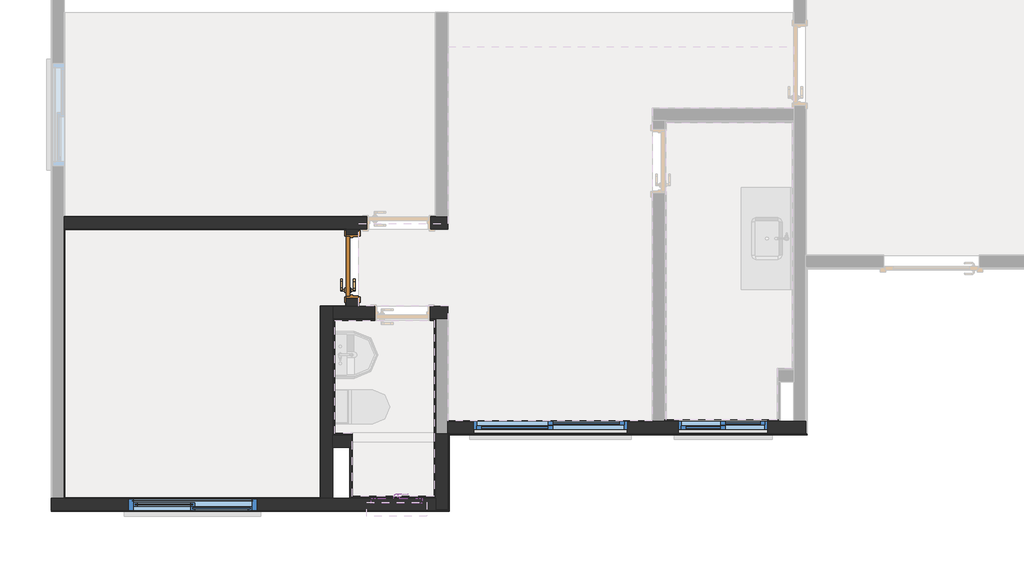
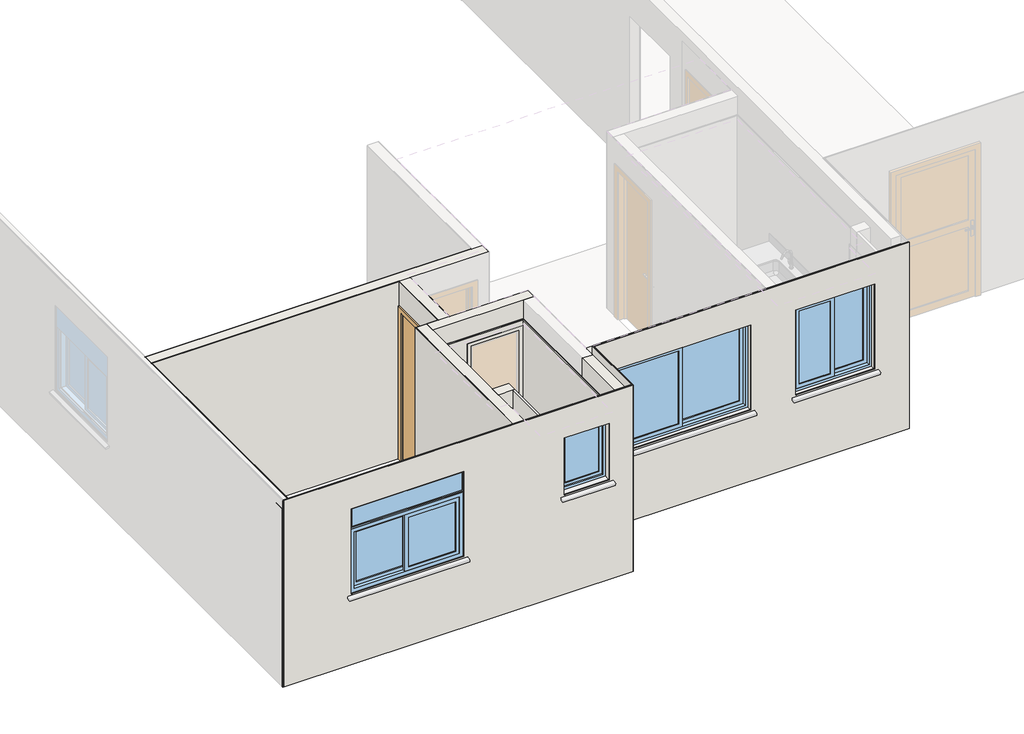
# One storey, part 1 of 9: 30 walls, 4 windows, 1 door.
"""IFC4 building model written with IfcOpenShell, lengths in millimetres."""

from ifc_helpers import new_model, si_unit, frame, origin, place, context, project, spatial, polyline, outline, extrude, faceted_brep, transform, mapped, element, save
from components import porta_de_madeira_interna_70_x_210_porta_de_madeira_interna_d0067c94, window_105x120_f2d7c1f1, window_150x120_581fea6a, window_180x120_f0fd8075, window_60x80_d31b0025

model = new_model("IFC4")

# Units and contexts
model_context = context("Model", 3, world=origin())
ifc_project = project(units=[si_unit("LENGTHUNIT", "METRE", prefix="MILLI")], contexts=[model_context])

# Site, building, storey
site = spatial("IfcSite", under=ifc_project)
building = spatial("IfcBuilding", under=site)
storey = spatial("IfcBuildingStorey", under=building, Name="2º Pavimento", Elevation=2630.0)

# Door
placement = place(None, origin())
porta_de_madeira_interna_70_x_210_porta_de_madeira_interna_shape = porta_de_madeira_interna_70_x_210_porta_de_madeira_interna_d0067c94(model_context)
element("IfcDoor", 1, ObjectType="Porta de Madeira Interna 70 x 210 : Porta de Madeira Interna 70 x 210", at=placement, inside=storey, context=model_context, shape_type="MappedRepresentation", body=[
    mapped(porta_de_madeira_interna_70_x_210_porta_de_madeira_interna_shape, transform((3546.8230641, 3342.9958256, 2630.0), x_axis=(0.0, 1.0, 0.0), y_axis=(-1.0, 0.0, 0.0), z_axis=(0.0, 0.0, 1.0))),
])

# Walls
element("IfcWall", 2, ObjectType="Mureta box", at=placement, inside=storey, context=model_context, shape_type="SweptSolid", body=[
    extrude(outline(polyline([(4509.99398, 1294.9970972), (3529.99398, 1294.9970972), (3529.99398, 1304.9970972), (4509.99398, 1304.9970972), (4509.99398, 1294.9970972)])), frame((0.0, 0.0, 2630.0), z_axis=(0.0, 0.0, 1.0), x_axis=(1.0, 0.0, 0.0)), (0.0, 0.0, 1.0), 90.0),
    extrude(outline(polyline([(3529.99398, 1374.9970972), (4509.99398, 1374.9970972), (4509.99398, 1364.9970972), (3529.99398, 1364.9970972), (3529.99398, 1374.9970972)])), frame((0.0, 0.0, 2630.0), z_axis=(0.0, 0.0, 1.0), x_axis=(1.0, 0.0, 0.0)), (0.0, 0.0, 1.0), 90.0),
    extrude(outline(polyline([(3529.99398, 1304.9970972), (3529.99398, 1364.9970972), (4509.99398, 1364.9970972), (4509.99398, 1304.9970972), (3529.99398, 1304.9970972)])), frame((0.0, 0.0, 2630.0), z_axis=(0.0, 0.0, 1.0), x_axis=(1.0, 0.0, 0.0)), (0.0, 0.0, 1.0), 90.0),
])
element("IfcWall", 3, ObjectType="Alvenaria Estrutural", at=placement, inside=storey, context=model_context, shape_type="Brep", body=[
    faceted_brep([(4669.9996867, 3779.9951411, 5140.0), (3625.9980641, 3779.9951411, 5140.0), (3619.9980641, 3779.9951411, 5140.0), (3479.9980641, 3779.9951411, 5140.0), (3473.9980641, 3779.9951411, 5140.0), (175.9991825, 3779.9951411, 5140.0), (169.9991825, 3779.9951411, 5140.0), (169.9991825, 3779.9951411, 2630.0), (175.9991825, 3779.9951411, 2630.0), (3473.9980641, 3779.9951411, 2630.0), (3479.9980641, 3779.9951411, 2630.0), (3619.9980641, 3779.9951411, 2630.0), (3625.9980641, 3779.9951411, 2630.0), (3717.999908, 3779.9951411, 2630.0), (3717.999908, 3779.9951411, 4755.0), (4467.999908, 3779.9951411, 4755.0), (4467.999908, 3779.9951411, 2630.0), (4669.9996867, 3779.9951411, 2630.0), (169.9991825, 3919.9951411, 5140.0), (175.9991825, 3919.9951411, 5140.0), (4523.9996867, 3919.9951411, 5140.0), (4529.9996867, 3919.9951411, 5140.0), (4669.9996867, 3919.9951411, 5140.0), (4669.9996867, 3919.9951411, 2630.0), (4529.9996867, 3919.9951411, 2630.0), (4523.9996867, 3919.9951411, 2630.0), (4467.999908, 3919.9951411, 2630.0), (4467.999908, 3919.9951411, 4755.0), (3717.999908, 3919.9951411, 4755.0), (3717.999908, 3919.9951411, 2630.0), (175.9991825, 3919.9951411, 2630.0), (169.9991825, 3919.9951411, 2630.0)], [[[0, 1, 2, 3, 4, 5, 6, 7, 8, 9, 10, 11, 12, 13, 14, 15, 16, 17]], [[18, 19, 20, 21, 22, 23, 24, 25, 26, 27, 28, 29, 30, 31]], [[8, 7, 31, 30, 29, 13, 12, 11, 10, 9]], [[1, 0, 22, 21, 20, 19, 18, 6, 5, 4, 3, 2]], [[16, 15, 27, 26]], [[15, 14, 28, 27]], [[14, 13, 29, 28]], [[0, 17, 23, 22]], [[7, 6, 18, 31]], [[17, 16, 26, 25, 24, 23]]]),
])
element("IfcWall", 4, ObjectType="Alvenaria Estrutural", at=placement, inside=storey, context=model_context, shape_type="Brep", body=[
    faceted_brep([(3479.9980641, 2869.9967615, 5140.0), (3479.9980641, 2875.9967615, 5140.0), (3479.9980641, 3779.9951411, 5140.0), (3479.9980641, 3779.9951411, 2630.0), (3479.9980641, 3717.9958256, 2630.0), (3479.9980641, 3717.9958256, 4755.0), (3479.9980641, 2967.9958256, 4755.0), (3479.9980641, 2967.9958256, 2630.0), (3479.9980641, 2875.9967615, 2630.0), (3479.9980641, 2869.9967615, 2630.0), (3619.9980641, 3779.9951411, 5140.0), (3619.9980641, 3773.9951411, 5140.0), (3619.9980641, 2875.9967615, 5140.0), (3619.9980641, 2869.9967615, 5140.0), (3619.9980641, 2869.9967615, 2630.0), (3619.9980641, 2875.9967615, 2630.0), (3619.9980641, 2967.9958256, 2630.0), (3619.9980641, 2967.9958256, 4755.0), (3619.9980641, 3717.9958256, 4755.0), (3619.9980641, 3717.9958256, 2630.0), (3619.9980641, 3773.9951411, 2630.0), (3619.9980641, 3779.9951411, 2630.0)], [[[0, 1, 2, 3, 4, 5, 6, 7, 8, 9]], [[10, 11, 12, 13, 14, 15, 16, 17, 18, 19, 20, 21]], [[4, 3, 21, 20, 19]], [[1, 0, 13, 12, 11, 10, 2]], [[5, 4, 19, 18]], [[6, 5, 18, 17]], [[7, 6, 17, 16]], [[0, 9, 14, 13]], [[3, 2, 10, 21]], [[8, 7, 16, 15, 14, 9]]]),
])
element("IfcWall", 5, ObjectType="Alvenaria Estrutural", at=placement, inside=storey, context=model_context, shape_type="Brep", body=[
    faceted_brep([(3319.9976538, 1219.9970972, 2630.0), (3516.99398, 1219.9970972, 2630.0), (3539.99398, 1219.9970972, 2630.0), (3539.99398, 1219.9970972, 5140.0), (3516.99398, 1219.9970972, 5140.0), (3319.9976538, 1219.9970972, 5140.0), (3319.9976538, 1359.9970972, 2630.0), (3319.9976538, 1359.9970972, 5140.0), (3539.99398, 1359.9970972, 5140.0), (3539.99398, 1359.9970972, 2630.0)], [[[0, 1, 2, 3, 4, 5]], [[6, 7, 8, 9]], [[1, 0, 6, 9, 2]], [[4, 3, 8, 7, 5]], [[3, 2, 9, 8]], [[0, 5, 7, 6]]]),
])
element("IfcWall", 6, ObjectType="Alvenaria Estrutural", at=placement, inside=storey, context=model_context, shape_type="Brep", body=[
    faceted_brep([(3319.9976538, 619.9952456, 2630.0), (3319.9976538, 1219.9970972, 2630.0), (3319.9976538, 1359.9970972, 2630.0), (3319.9976538, 1379.9970972, 2630.0), (3319.9976538, 2709.9967615, 2630.0), (3319.9976538, 2729.9967615, 2630.0), (3319.9976538, 2869.9967615, 2630.0), (3319.9976538, 2869.9967615, 5140.0), (3319.9976538, 2729.9967615, 5140.0), (3319.9976538, 1359.9970972, 5140.0), (3319.9976538, 1219.9970972, 5140.0), (3319.9976538, 619.9952456, 5140.0), (3179.9976538, 619.9952456, 2630.0), (3179.9976538, 619.9952456, 5140.0), (3179.9976538, 625.9952456, 5140.0), (3179.9976538, 2869.9967615, 5140.0), (3179.9976538, 2869.9967615, 2630.0), (3179.9976538, 625.9952456, 2630.0)], [[[0, 1, 2, 3, 4, 5, 6, 7, 8, 9, 10, 11]], [[12, 13, 14, 15, 16, 17]], [[1, 0, 12, 17, 16, 6, 5, 4, 3, 2]], [[8, 7, 15, 14, 13, 11, 10, 9]], [[7, 6, 16, 15]], [[0, 11, 13, 12]]]),
])
element("IfcWall", 7, ObjectType="Alvenaria Estrutural", at=placement, inside=storey, context=model_context, shape_type="Brep", body=[
    faceted_brep([(4669.9990083, 2729.9967615, 5140.0), (4529.9990083, 2729.9967615, 5140.0), (3319.9976538, 2729.9967615, 5140.0), (3319.9976538, 2729.9967615, 2630.0), (3812.9990083, 2729.9967615, 2630.0), (3812.9990083, 2729.9967615, 4755.0), (4462.9990083, 2729.9967615, 4755.0), (4462.9990083, 2729.9967615, 2630.0), (4529.9990083, 2729.9967615, 2630.0), (4669.9990083, 2729.9967615, 2630.0), (3319.9976538, 2869.9967615, 5140.0), (3479.9980641, 2869.9967615, 5140.0), (3619.9980641, 2869.9967615, 5140.0), (3625.9980641, 2869.9967615, 5140.0), (4669.9990083, 2869.9967615, 5140.0), (4669.9990083, 2869.9967615, 2630.0), (4462.9990083, 2869.9967615, 2630.0), (4462.9990083, 2869.9967615, 4755.0), (3812.9990083, 2869.9967615, 4755.0), (3812.9990083, 2869.9967615, 2630.0), (3625.9980641, 2869.9967615, 2630.0), (3619.9980641, 2869.9967615, 2630.0), (3479.9980641, 2869.9967615, 2630.0), (3319.9976538, 2869.9967615, 2630.0)], [[[0, 1, 2, 3, 4, 5, 6, 7, 8, 9]], [[10, 11, 12, 13, 14, 15, 16, 17, 18, 19, 20, 21, 22, 23]], [[4, 3, 23, 22, 21, 20, 19]], [[1, 0, 14, 13, 12, 11, 10, 2]], [[7, 6, 17, 16]], [[6, 5, 18, 17]], [[5, 4, 19, 18]], [[0, 9, 15, 14]], [[3, 2, 10, 23]], [[8, 7, 16, 15, 9]]]),
])
element("IfcWall", 8, ObjectType="Alvenaria Estrutural", at=placement, inside=storey, context=model_context, shape_type="Brep", body=[
    faceted_brep([(4669.9986472, 479.9952456, 2630.0), (4669.9986472, 1374.9970972, 2630.0), (4669.9986472, 1374.9970972, 5140.0), (4669.9986472, 479.9952456, 5140.0), (4529.9986472, 479.9952456, 2630.0), (4529.9986472, 479.9952456, 5140.0), (4529.9986472, 619.9952456, 5140.0), (4529.9986472, 1374.9970972, 5140.0), (4529.9986472, 1374.9970972, 2630.0), (4529.9986472, 619.9952456, 2630.0)], [[[0, 1, 2, 3]], [[4, 5, 6, 7, 8, 9]], [[1, 0, 4, 9, 8]], [[2, 1, 8, 7]], [[3, 2, 7, 6, 5]], [[0, 3, 5, 4]]]),
])
element("IfcWall", 9, ObjectType="Alvenaria Estrutural", at=placement, inside=storey, context=model_context, shape_type="Brep", body=[
    faceted_brep([(4669.9990083, 1379.9983274, 2640.0), (8869.9990083, 1379.9983274, 2640.0), (8869.9990083, 1379.9983274, 5150.0), (4669.9990083, 1379.9983274, 5150.0), (4924.99925, 1379.9983274, 3581.3083694), (4924.99925, 1379.9983274, 3630.0), (4974.99925, 1379.9983274, 3630.0), (4974.99925, 1379.9983274, 4830.0), (6774.99925, 1379.9983274, 4830.0), (6774.99925, 1379.9983274, 3630.0), (6824.99925, 1379.9983274, 3630.0), (6824.99925, 1379.9983274, 3581.3083694), (8474.99921, 1379.9983274, 3630.0), (8474.99921, 1379.9983274, 3581.3083694), (7324.99921, 1379.9983274, 3581.3083694), (7324.99921, 1379.9983274, 3630.0), (7374.99921, 1379.9983274, 3630.0), (7374.99921, 1379.9983274, 4830.0), (8424.99921, 1379.9983274, 4830.0), (8424.99921, 1379.9983274, 3630.0), (8869.9990083, 1519.9983274, 2640.0), (4669.9990083, 1519.9983274, 2640.0), (4669.9990083, 1519.9983274, 5140.0), (4669.9990083, 1519.9983274, 5150.0), (8869.9990083, 1519.9983274, 5150.0), (8424.99921, 1519.9983274, 3630.0), (8424.99921, 1519.9983274, 4830.0), (7374.99921, 1519.9983274, 4830.0), (7374.99921, 1519.9983274, 3630.0), (6774.99925, 1519.9983274, 3630.0), (6774.99925, 1519.9983274, 4830.0), (4974.99925, 1519.9983274, 4830.0), (4974.99925, 1519.9983274, 3630.0), (8474.99921, 1477.4983274, 3630.0), (8474.99921, 1477.4983274, 3602.0326341), (7324.99921, 1477.4983274, 3602.0326341), (7324.99921, 1477.4983274, 3630.0), (8424.99921, 1477.4983274, 3630.0), (7374.99921, 1477.4983274, 3630.0), (4924.99925, 1477.4983274, 3602.0326341), (4924.99925, 1477.4983274, 3630.0), (6824.99925, 1477.4983274, 3630.0), (6824.99925, 1477.4983274, 3602.0326341), (6774.99925, 1477.4983274, 3630.0), (4974.99925, 1477.4983274, 3630.0)], [[[0, 1, 2, 3], [4, 5, 6, 7, 8, 9, 10, 11], [12, 13, 14, 15, 16, 17, 18, 19]], [[20, 21, 22, 23, 24], [25, 26, 27, 28], [29, 30, 31, 32]], [[1, 0, 21, 20]], [[2, 1, 20, 24]], [[3, 2, 24, 23]], [[0, 3, 23, 22, 21]], [[13, 12, 33, 34]], [[15, 14, 35, 36]], [[34, 33, 37, 38, 36, 35]], [[12, 19, 37, 33]], [[14, 13, 34, 35]], [[19, 18, 26, 25, 37]], [[18, 17, 27, 26]], [[17, 16, 38, 28, 27]], [[25, 28, 38, 37]], [[5, 4, 39, 40]], [[11, 10, 41, 42]], [[40, 39, 42, 41, 43, 44]], [[6, 5, 40, 44]], [[4, 11, 42, 39]], [[9, 8, 30, 29, 43]], [[8, 7, 31, 30]], [[7, 6, 44, 32, 31]], [[29, 32, 44, 43]], [[10, 9, 43, 41]], [[16, 15, 36, 38]]]),
])
element("IfcWall", 10, ObjectType="Alvenaria Estrutural", at=placement, inside=storey, context=model_context, shape_type="Brep", body=[
    faceted_brep([(14.9976538, 479.9952456, 2630.0), (4529.9986472, 479.9952456, 2630.0), (4529.9986472, 479.9952456, 5140.0), (14.9976538, 479.9952456, 5140.0), (3719.9986472, 479.9952456, 3981.3083694), (3719.9986472, 479.9952456, 4030.0), (3769.9986472, 479.9952456, 4030.0), (3769.9986472, 479.9952456, 4830.0), (4369.9986472, 479.9952456, 4830.0), (4369.9986472, 479.9952456, 4030.0), (4419.9986472, 479.9952456, 4030.0), (4419.9986472, 479.9952456, 3981.3083694), (874.9984443, 479.9952456, 3581.3083694), (874.9984443, 479.9952456, 3630.0), (924.9984443, 479.9952456, 3630.0), (924.9984443, 479.9952456, 4830.0), (2424.9984443, 479.9952456, 4830.0), (2424.9984443, 479.9952456, 3630.0), (2474.9984443, 479.9952456, 3630.0), (2474.9984443, 479.9952456, 3581.3083694), (4529.9986472, 619.9952456, 2630.0), (4509.9990083, 619.9952456, 2630.0), (3539.99398, 619.9952456, 2630.0), (3516.99398, 619.9952456, 2630.0), (3319.9976538, 619.9952456, 2630.0), (3179.9976538, 619.9952456, 2630.0), (175.9991825, 619.9952456, 2630.0), (169.9991825, 619.9952456, 2630.0), (14.9976538, 619.9952456, 2630.0), (14.9976538, 619.9952456, 5140.0), (169.9991825, 619.9952456, 5140.0), (175.9991825, 619.9952456, 5140.0), (3179.9976538, 619.9952456, 5140.0), (3319.9976538, 619.9952456, 5140.0), (3516.99398, 619.9952456, 5140.0), (3539.99398, 619.9952456, 5140.0), (4529.9986472, 619.9952456, 5140.0), (4529.9986472, 619.9952456, 4880.0), (4369.9986472, 619.9952456, 4030.0), (4369.9986472, 619.9952456, 4830.0), (3769.9986472, 619.9952456, 4830.0), (3769.9986472, 619.9952456, 4030.0), (2424.9984443, 619.9952456, 3630.0), (2424.9984443, 619.9952456, 4830.0), (924.9984443, 619.9952456, 4830.0), (924.9984443, 619.9952456, 3630.0), (4529.9986472, 480.9952456, 2630.0), (4529.9986472, 480.9952456, 5140.0), (874.9984443, 577.4952456, 3602.0326341), (874.9984443, 577.4952456, 3630.0), (2474.9984443, 577.4952456, 3630.0), (2474.9984443, 577.4952456, 3602.0326341), (2424.9984443, 577.4952456, 3630.0), (924.9984443, 577.4952456, 3630.0), (3719.9986472, 577.4952456, 4002.0326341), (3719.9986472, 577.4952456, 4030.0), (4419.9986472, 577.4952456, 4030.0), (4419.9986472, 577.4952456, 4002.0326341), (4369.9986472, 577.4952456, 4030.0), (3769.9986472, 577.4952456, 4030.0)], [[[0, 1, 2, 3], [4, 5, 6, 7, 8, 9, 10, 11], [12, 13, 14, 15, 16, 17, 18, 19]], [[20, 21, 22, 23, 24, 25, 26, 27, 28, 29, 30, 31, 32, 33, 34, 35, 36, 37], [38, 39, 40, 41], [42, 43, 44, 45]], [[1, 0, 28, 27, 26, 25, 24, 23, 22, 21, 20, 46]], [[29, 3, 2, 47, 36, 35, 34, 33, 32, 31, 30]], [[13, 12, 48, 49]], [[19, 18, 50, 51]], [[49, 48, 51, 50, 52, 53]], [[14, 13, 49, 53]], [[12, 19, 51, 48]], [[17, 16, 43, 42, 52]], [[16, 15, 44, 43]], [[15, 14, 53, 45, 44]], [[42, 45, 53, 52]], [[5, 4, 54, 55]], [[11, 10, 56, 57]], [[55, 54, 57, 56, 58, 59]], [[6, 5, 55, 59]], [[4, 11, 57, 54]], [[9, 8, 39, 38, 58]], [[8, 7, 40, 39]], [[7, 6, 59, 41, 40]], [[38, 41, 59, 58]], [[2, 1, 46, 20, 37, 36, 47]], [[10, 9, 58, 56]], [[18, 17, 52, 50]], [[0, 3, 29, 28]]]),
])
element("IfcWall", 11, ObjectType="Azulejo", at=placement, inside=storey, context=model_context, shape_type="SolidModel", body=[
    faceted_brep([(8536.99631, 1539.9983274, 2630.0), (8546.99631, 1539.9983274, 2630.0), (8546.99631, 1529.9983274, 2630.0), (7212.9986861, 1529.9983274, 2630.0), (7212.9986861, 1539.9983274, 2630.0), (8536.99631, 1539.9983274, 4880.0), (7212.9986861, 1539.9983274, 4880.0), (7212.9986861, 1529.9983274, 4880.0), (8546.99631, 1529.9983274, 4880.0), (8546.99631, 1539.9983274, 4880.0), (8424.99921, 1539.9983274, 4830.0), (8424.99921, 1539.9983274, 3630.0), (8424.99921, 1529.9983274, 3630.0), (8424.99921, 1529.9983274, 4830.0), (7374.99921, 1539.9983274, 4830.0), (7374.99921, 1529.9983274, 4830.0), (7374.99921, 1539.9983274, 3630.0), (7374.99921, 1529.9983274, 3630.0)], [[[0, 1, 2, 3, 4]], [[5, 6, 7, 8, 9]], [[10, 11, 12, 13]], [[14, 10, 13, 15]], [[16, 14, 15, 17]], [[11, 16, 17, 12]], [[6, 4, 3, 7]], [[1, 9, 8, 2]], [[3, 2, 8, 7], [13, 12, 17, 15]], [[4, 6, 5, 9, 1, 0], [11, 10, 14, 16]]]),
    extrude(outline(polyline([(2630.0, 7212.9986861), (2630.0, 8546.99631), (4880.0, 8546.99631), (4880.0, 7212.9986861), (2630.0, 7212.9986861)]), holes=[polyline([(3630.0, 8424.99921), (3630.0, 7374.99921), (4830.0, 7374.99921), (4830.0, 8424.99921), (3630.0, 8424.99921)])]), frame((0.0, 1519.9983274, 0.0), z_axis=(0.0, 1.0, 0.0), x_axis=(0.0, 0.0, 1.0)), (0.0, 0.0, 1.0), 10.0),
])
element("IfcWall", 12, ObjectType="Azulejo", at=placement, inside=storey, context=model_context, shape_type="SolidModel", body=[
    faceted_brep([(3812.9990083, 2719.9967615, 2630.0), (3812.9990083, 2709.9967615, 2630.0), (3339.9976538, 2709.9967615, 2630.0), (3329.9976538, 2709.9967615, 2630.0), (3329.9976538, 2719.9967615, 2630.0), (3339.9976538, 2709.9967615, 4880.0), (4509.9990083, 2709.9967615, 4880.0), (4519.9990083, 2709.9967615, 4880.0), (4519.9990083, 2719.9967615, 4880.0), (3329.9976538, 2719.9967615, 4880.0), (3329.9976538, 2709.9967615, 4880.0), (4462.9990083, 2709.9967615, 2630.0), (4462.9990083, 2709.9967615, 4755.0), (4462.9990083, 2719.9967615, 4755.0), (4462.9990083, 2719.9967615, 2630.0), (3812.9990083, 2709.9967615, 4755.0), (3812.9990083, 2719.9967615, 4755.0), (4519.9990083, 2719.9967615, 2630.0), (4519.9990083, 2709.9967615, 2630.0), (4509.9990083, 2709.9967615, 2630.0)], [[[0, 1, 2, 3, 4]], [[5, 6, 7, 8, 9, 10]], [[11, 12, 13, 14]], [[13, 12, 15, 16]], [[1, 0, 16, 15]], [[11, 14, 17, 18, 19]], [[14, 13, 16, 0, 4, 9, 8, 17]], [[2, 1, 15, 12, 11, 19, 18, 7, 6, 5, 10, 3]], [[4, 3, 10, 9]], [[8, 7, 18, 17]]]),
    extrude(outline(polyline([(2630.0, 3319.9976538), (2630.0, 3812.9990083), (4755.0, 3812.9990083), (4755.0, 4462.9990083), (2630.0, 4462.9990083), (2630.0, 4529.9990083), (4880.0, 4529.9990083), (4880.0, 3319.9976538), (2630.0, 3319.9976538)])), frame((0.0, 2719.9967615, 0.0), z_axis=(0.0, 1.0, 0.0), x_axis=(0.0, 0.0, 1.0)), (0.0, 0.0, 1.0), 10.0),
])
element("IfcWall", 13, ObjectType="Azulejo", at=placement, inside=storey, context=model_context, shape_type="SolidModel", body=[
    faceted_brep([(4509.9990083, 639.9950349, 2630.0), (4509.9990083, 2709.9967615, 2630.0), (4519.9990083, 2709.9967615, 2630.0), (4519.9990083, 629.9950349, 2630.0), (4509.9990083, 629.9950349, 2630.0), (4519.9990083, 2709.9967615, 4880.0), (4509.9990083, 2709.9967615, 4880.0), (4509.9990083, 639.9950349, 4880.0), (4509.9990083, 629.9950349, 4880.0), (4519.9990083, 629.9950349, 4880.0)], [[[0, 1, 2, 3, 4]], [[5, 6, 7, 8, 9]], [[2, 1, 6, 5]], [[2, 5, 9, 3]], [[1, 0, 4, 8, 7, 6]], [[4, 3, 9, 8]]]),
    extrude(outline(polyline([(4529.9990083, 2719.9967615), (4529.9990083, 619.9952456), (4519.9990083, 619.9952456), (4519.9990083, 2719.9967615), (4529.9990083, 2719.9967615)])), frame((0.0, 0.0, 2630.0), z_axis=(0.0, 0.0, 1.0), x_axis=(1.0, 0.0, 0.0)), (0.0, 0.0, 1.0), 2250.0),
])
element("IfcWall", 14, ObjectType="Azulejo", at=placement, inside=storey, context=model_context, shape_type="SolidModel", body=[
    faceted_brep([(3549.99398, 639.9950349, 2630.0), (4509.9990083, 639.9950349, 2630.0), (4509.9990083, 629.9950349, 2630.0), (3539.99398, 629.9950349, 2630.0), (3539.99398, 639.9950349, 2630.0), (3549.99398, 639.9950349, 4880.0), (3539.99398, 639.9950349, 4880.0), (3539.99398, 629.9950349, 4880.0), (4509.9990083, 629.9950349, 4880.0), (4509.9990083, 639.9950349, 4880.0), (4369.9986472, 639.9950349, 4830.0), (4369.9986472, 639.9950349, 4030.0), (4369.9986472, 629.9950349, 4030.0), (4369.9986472, 629.9950349, 4830.0), (3769.9986472, 639.9950349, 4830.0), (3769.9986472, 629.9950349, 4830.0), (3769.9986472, 639.9950349, 4030.0), (3769.9986472, 629.9950349, 4030.0)], [[[0, 1, 2, 3, 4]], [[5, 6, 7, 8, 9]], [[1, 9, 8, 2]], [[6, 4, 3, 7]], [[10, 11, 12, 13]], [[14, 10, 13, 15]], [[16, 14, 15, 17]], [[11, 16, 17, 12]], [[3, 2, 8, 7], [13, 12, 17, 15]], [[1, 0, 4, 6, 5, 9], [11, 10, 14, 16]]]),
    extrude(outline(polyline([(2630.0, 4519.9990083), (4880.0, 4519.9990083), (4880.0, 3539.99398), (2630.0, 3539.99398), (2630.0, 4519.9990083)]), holes=[polyline([(4030.0, 4369.9986472), (4030.0, 3769.9986472), (4830.0, 3769.9986472), (4830.0, 4369.9986472), (4030.0, 4369.9986472)])]), frame((0.0, 619.9950349, 0.0), z_axis=(0.0, 1.0, 0.0), x_axis=(0.0, 0.0, 1.0)), (0.0, 0.0, 1.0), 10.0),
])
element("IfcWall", 15, ObjectType="Azulejo", at=placement, inside=storey, context=model_context, shape_type="SweptSolid", body=[
    extrude(outline(polyline([(3549.99398, 1369.9970972), (3549.99398, 1219.9970972), (3539.99398, 1219.9970972), (3539.99398, 1369.9970972), (3549.99398, 1369.9970972)])), frame((0.0, 0.0, 2630.0), z_axis=(0.0, 0.0, 1.0), x_axis=(1.0, 0.0, 0.0)), (0.0, 0.0, 1.0), 2250.0),
    extrude(outline(polyline([(3529.99398, 1219.9970972), (3529.99398, 1359.9970972), (3539.99398, 1359.9970972), (3539.99398, 1219.9970972), (3529.99398, 1219.9970972)])), frame((0.0, 0.0, 2630.0), z_axis=(0.0, 0.0, 1.0), x_axis=(1.0, 0.0, 0.0)), (0.0, 0.0, 1.0), 2250.0),
])
element("IfcWall", 16, ObjectType="Azulejo", at=placement, inside=storey, context=model_context, shape_type="Brep", body=[
    faceted_brep([(3339.9976538, 1379.9970972, 2630.0), (3549.99398, 1379.9970972, 2630.0), (3549.99398, 1369.9970972, 2630.0), (3329.9976538, 1369.9970972, 2630.0), (3329.9976538, 1379.9970972, 2630.0), (3549.99398, 1369.9970972, 4880.0), (3549.99398, 1379.9970972, 4880.0), (3339.9976538, 1379.9970972, 4880.0), (3329.9976538, 1379.9970972, 4880.0), (3329.9976538, 1369.9970972, 4880.0)], [[[0, 1, 2, 3, 4]], [[5, 6, 7, 8, 9]], [[2, 1, 6, 5]], [[2, 5, 9, 3]], [[1, 0, 4, 8, 7, 6]], [[4, 3, 9, 8]]]),
    faceted_brep([(3539.99398, 1369.9970972, 2630.0), (3319.9976538, 1369.9970972, 2630.0), (3319.9976538, 1369.9970972, 4880.0), (3539.99398, 1369.9970972, 4880.0), (3319.9976538, 1359.9970972, 2630.0), (3529.99398, 1359.9970972, 2630.0), (3539.99398, 1359.9970972, 2630.0), (3539.99398, 1359.9970972, 4880.0), (3529.99398, 1359.9970972, 4880.0), (3319.9976538, 1359.9970972, 4880.0)], [[[0, 1, 2, 3]], [[4, 5, 6, 7, 8, 9]], [[5, 4, 1, 0, 6]], [[8, 7, 3, 2, 9]], [[4, 9, 2, 1]], [[7, 6, 0, 3]]]),
])
element("IfcWall", 17, ObjectType="Azulejo", at=placement, inside=storey, context=model_context, shape_type="SweptSolid", body=[
    extrude(outline(polyline([(3339.9976538, 2709.9967615), (3339.9976538, 1379.9970972), (3329.9976538, 1379.9970972), (3329.9976538, 2709.9967615), (3339.9976538, 2709.9967615)])), frame((0.0, 0.0, 2630.0), z_axis=(0.0, 0.0, 1.0), x_axis=(1.0, 0.0, 0.0)), (0.0, 0.0, 1.0), 2250.0),
    extrude(outline(polyline([(3319.9976538, 1369.9970972), (3319.9976538, 2719.9967615), (3329.9976538, 2719.9967615), (3329.9976538, 1369.9970972), (3319.9976538, 1369.9970972)])), frame((0.0, 0.0, 2630.0), z_axis=(0.0, 0.0, 1.0), x_axis=(1.0, 0.0, 0.0)), (0.0, 0.0, 1.0), 2250.0),
])
element("IfcWall", 18, ObjectType="Azulejo - Shaft", at=placement, inside=storey, context=model_context, shape_type="SweptSolid", body=[
    extrude(outline(polyline([(3549.99398, 1219.9970972), (3549.99398, 639.9950349), (3539.99398, 639.9950349), (3539.99398, 1219.9970972), (3549.99398, 1219.9970972)])), frame((0.0, 0.0, 2630.0), z_axis=(0.0, 0.0, 1.0), x_axis=(1.0, 0.0, 0.0)), (0.0, 0.0, 1.0), 2250.0),
])
element("IfcWall", 19, ObjectType="Gesso Liso + Pintura", at=placement, inside=storey, context=model_context, shape_type="SweptSolid", body=[
    extrude(outline(polyline([(2630.0, 169.9991825), (2630.0, 3717.999908), (4755.0, 3717.999908), (4755.0, 4467.999908), (2630.0, 4467.999908), (2630.0, 4529.9996867), (5140.0, 4529.9996867), (5140.0, 169.9991825), (2630.0, 169.9991825)])), frame((0.0, 3924.9951411, 0.0), z_axis=(0.0, 1.0, 0.0), x_axis=(0.0, 0.0, 1.0)), (0.0, 0.0, 1.0), 1.0),
    extrude(outline(polyline([(5140.0, 4529.9996867), (5140.0, 169.9991825), (2630.0, 169.9991825), (2630.0, 3717.999908), (4755.0, 3717.999908), (4755.0, 4467.999908), (2630.0, 4467.999908), (2630.0, 4529.9996867), (5140.0, 4529.9996867)])), frame((0.0, 3919.9951411, 0.0), z_axis=(0.0, 1.0, 0.0), x_axis=(0.0, 0.0, 1.0)), (0.0, 0.0, 1.0), 5.0),
])
element("IfcWall", 20, ObjectType="Gesso Liso + Pintura", at=placement, inside=storey, context=model_context, shape_type="SolidModel", body=[
    faceted_brep([(174.9991825, 3779.9951411, 2630.0), (175.9991825, 3779.9951411, 2630.0), (175.9991825, 625.9952456, 2630.0), (175.9991825, 624.9952456, 2630.0), (174.9991825, 624.9952456, 2630.0), (175.9991825, 625.9952456, 5140.0), (175.9991825, 3779.9951411, 5140.0), (174.9991825, 3779.9951411, 5140.0), (174.9991825, 624.9952456, 5140.0), (175.9991825, 624.9952456, 5140.0)], [[[0, 1, 2, 3, 4]], [[5, 6, 7, 8, 9]], [[1, 0, 7, 6]], [[7, 0, 4, 8]], [[2, 1, 6, 5, 9, 3]], [[4, 3, 9, 8]]]),
    extrude(outline(polyline([(169.9991825, 619.9952456), (169.9991825, 3779.9951411), (174.9991825, 3779.9951411), (174.9991825, 619.9952456), (169.9991825, 619.9952456)])), frame((0.0, 0.0, 2630.0), z_axis=(0.0, 0.0, 1.0), x_axis=(1.0, 0.0, 0.0)), (0.0, 0.0, 1.0), 2510.0),
])
element("IfcWall", 21, ObjectType="Gesso Liso + Pintura", at=placement, inside=storey, context=model_context, shape_type="SolidModel", body=[
    faceted_brep([(175.9991825, 624.9952456, 2630.0), (175.9991825, 625.9952456, 2630.0), (3173.9976538, 625.9952456, 2630.0), (3174.9976538, 625.9952456, 2630.0), (3174.9976538, 624.9952456, 2630.0), (3173.9976538, 625.9952456, 5140.0), (175.9991825, 625.9952456, 5140.0), (175.9991825, 624.9952456, 5140.0), (3174.9976538, 624.9952456, 5140.0), (3174.9976538, 625.9952456, 5140.0), (2424.9984443, 625.9952456, 4830.0), (2424.9984443, 625.9952456, 3630.0), (2424.9984443, 624.9952456, 3630.0), (2424.9984443, 624.9952456, 4830.0), (924.9984443, 624.9952456, 4830.0), (924.9984443, 625.9952456, 4830.0), (924.9984443, 624.9952456, 3630.0), (924.9984443, 625.9952456, 3630.0)], [[[0, 1, 2, 3, 4]], [[5, 6, 7, 8, 9]], [[1, 0, 7, 6]], [[10, 11, 12, 13]], [[10, 13, 14, 15]], [[15, 14, 16, 17]], [[12, 11, 17, 16]], [[7, 0, 4, 8], [13, 12, 16, 14]], [[2, 1, 6, 5, 9, 3], [11, 10, 15, 17]], [[4, 3, 9, 8]]]),
    extrude(outline(polyline([(2630.0, 174.9991825), (2630.0, 3179.9976538), (5140.0, 3179.9976538), (5140.0, 174.9991825), (2630.0, 174.9991825)]), holes=[polyline([(3630.0, 2424.9984443), (3630.0, 924.9984443), (4830.0, 924.9984443), (4830.0, 2424.9984443), (3630.0, 2424.9984443)])]), frame((0.0, 619.9952456, 0.0), z_axis=(0.0, 1.0, 0.0), x_axis=(0.0, 0.0, 1.0)), (0.0, 0.0, 1.0), 5.0),
])
element("IfcWall", 22, ObjectType="Gesso Liso + Pintura", at=placement, inside=storey, context=model_context, shape_type="SolidModel", body=[
    extrude(outline(polyline([(3173.9976538, 625.9952456), (3173.9976538, 2875.9967615), (3174.9976538, 2875.9967615), (3174.9976538, 625.9952456), (3173.9976538, 625.9952456)])), frame((0.0, 0.0, 2630.0), z_axis=(0.0, 0.0, 1.0), x_axis=(1.0, 0.0, 0.0)), (0.0, 0.0, 1.0), 2510.0),
    faceted_brep([(3174.9976538, 2874.9967615, 2630.0), (3174.9976538, 624.9952456, 2630.0), (3174.9976538, 624.9952456, 5140.0), (3174.9976538, 2874.9967615, 5140.0), (3179.9976538, 624.9952456, 2630.0), (3179.9976538, 2869.9967615, 2630.0), (3179.9976538, 2874.9967615, 2630.0), (3179.9976538, 2874.9967615, 5140.0), (3179.9976538, 2869.9967615, 5140.0), (3179.9976538, 624.9952456, 5140.0)], [[[0, 1, 2, 3]], [[4, 5, 6, 7, 8, 9]], [[5, 4, 1, 0, 6]], [[8, 7, 3, 2, 9]], [[4, 9, 2, 1]], [[7, 6, 0, 3]]]),
])
element("IfcWall", 23, ObjectType="Gesso Liso + Pintura", at=placement, inside=storey, context=model_context, shape_type="SolidModel", body=[
    faceted_brep([(3174.9976538, 2875.9967615, 2630.0), (3473.9980641, 2875.9967615, 2630.0), (3474.9980641, 2875.9967615, 2630.0), (3474.9980641, 2874.9967615, 2630.0), (3174.9976538, 2874.9967615, 2630.0), (3473.9980641, 2875.9967615, 5140.0), (3174.9976538, 2875.9967615, 5140.0), (3174.9976538, 2874.9967615, 5140.0), (3474.9980641, 2874.9967615, 5140.0), (3474.9980641, 2875.9967615, 5140.0)], [[[0, 1, 2, 3, 4]], [[5, 6, 7, 8, 9]], [[7, 4, 3, 8]], [[1, 0, 6, 5, 9, 2]], [[6, 0, 4, 7]], [[3, 2, 9, 8]]]),
    extrude(outline(polyline([(3479.9980641, 2869.9967615), (3179.9976538, 2869.9967615), (3179.9976538, 2874.9967615), (3479.9980641, 2874.9967615), (3479.9980641, 2869.9967615)])), frame((0.0, 0.0, 2630.0), z_axis=(0.0, 0.0, 1.0), x_axis=(1.0, 0.0, 0.0)), (0.0, 0.0, 1.0), 2510.0),
])
element("IfcWall", 24, ObjectType="Gesso Liso + Pintura", at=placement, inside=storey, context=model_context, shape_type="SolidModel", body=[
    faceted_brep([(3473.9980641, 2875.9967615, 2630.0), (3473.9980641, 2967.9958256, 2630.0), (3474.9980641, 2967.9958256, 2630.0), (3474.9980641, 2875.9967615, 2630.0), (3473.9980641, 3773.9951411, 5140.0), (3473.9980641, 2875.9967615, 5140.0), (3474.9980641, 2875.9967615, 5140.0), (3474.9980641, 3774.9951411, 5140.0), (3473.9980641, 3774.9951411, 5140.0), (3473.9980641, 3717.9958256, 4755.0), (3473.9980641, 3717.9958256, 2630.0), (3474.9980641, 3717.9958256, 2630.0), (3474.9980641, 3717.9958256, 4755.0), (3474.9980641, 2967.9958256, 4755.0), (3473.9980641, 2967.9958256, 4755.0), (3473.9980641, 3773.9951411, 2630.0), (3473.9980641, 3774.9951411, 2630.0), (3474.9980641, 3774.9951411, 2630.0)], [[[0, 1, 2, 3]], [[4, 5, 6, 7, 8]], [[9, 10, 11, 12]], [[9, 12, 13, 14]], [[2, 1, 14, 13]], [[0, 3, 6, 5]], [[11, 10, 15, 16, 17]], [[3, 2, 13, 12, 11, 17, 7, 6]], [[1, 0, 5, 4, 8, 16, 15, 10, 9, 14]], [[8, 7, 17, 16]]]),
    extrude(outline(polyline([(2967.9958256, 2630.0), (2874.9967615, 2630.0), (2874.9967615, 5140.0), (3779.9951411, 5140.0), (3779.9951411, 2630.0), (3717.9958256, 2630.0), (3717.9958256, 4755.0), (2967.9958256, 4755.0), (2967.9958256, 2630.0)])), frame((3474.9980641, 0.0, 0.0), z_axis=(1.0, 0.0, 0.0), x_axis=(0.0, 1.0, 0.0)), (0.0, 0.0, 1.0), 5.0),
])
element("IfcWall", 25, ObjectType="Gesso Liso + Pintura", at=placement, inside=storey, context=model_context, shape_type="SweptSolid", body=[
    extrude(outline(polyline([(3473.9980641, 3773.9951411), (169.9991825, 3773.9951411), (169.9991825, 3774.9951411), (3473.9980641, 3774.9951411), (3473.9980641, 3773.9951411)])), frame((0.0, 0.0, 2630.0), z_axis=(0.0, 0.0, 1.0), x_axis=(1.0, 0.0, 0.0)), (0.0, 0.0, 1.0), 2510.0),
    extrude(outline(polyline([(169.9991825, 3779.9951411), (3474.9980641, 3779.9951411), (3474.9980641, 3774.9951411), (169.9991825, 3774.9951411), (169.9991825, 3779.9951411)])), frame((0.0, 0.0, 2630.0), z_axis=(0.0, 0.0, 1.0), x_axis=(1.0, 0.0, 0.0)), (0.0, 0.0, 1.0), 2510.0),
])
element("IfcWall", 26, ObjectType="Gesso Liso + Pintura", at=placement, inside=storey, context=model_context, shape_type="SweptSolid", body=[
    extrude(outline(polyline([(2967.9958256, 2630.0), (2869.9967615, 2630.0), (2869.9967615, 5140.0), (3779.9951411, 5140.0), (3779.9951411, 2630.0), (3717.9958256, 2630.0), (3717.9958256, 4755.0), (2967.9958256, 4755.0), (2967.9958256, 2630.0)])), frame((3624.9980641, 0.0, 0.0), z_axis=(1.0, 0.0, 0.0), x_axis=(0.0, 1.0, 0.0)), (0.0, 0.0, 1.0), 1.0),
    extrude(outline(polyline([(2869.9967615, 5140.0), (3779.9951411, 5140.0), (3779.9951411, 2630.0), (3717.9958256, 2630.0), (3717.9958256, 4755.0), (2967.9958256, 4755.0), (2967.9958256, 2630.0), (2869.9967615, 2630.0), (2869.9967615, 5140.0)])), frame((3619.9980641, 0.0, 0.0), z_axis=(1.0, 0.0, 0.0), x_axis=(0.0, 1.0, 0.0)), (0.0, 0.0, 1.0), 5.0),
])
element("IfcWall", 27, ObjectType="Gesso Liso + Pintura", at=placement, inside=storey, context=model_context, shape_type="SolidModel", body=[
    extrude(outline(polyline([(2630.0, 4669.9990083), (2630.0, 7072.9986861), (5140.0, 7072.9986861), (5140.0, 4669.9990083), (2630.0, 4669.9990083)]), holes=[polyline([(4830.0, 6774.99925), (3630.0, 6774.99925), (3630.0, 4974.99925), (4830.0, 4974.99925), (4830.0, 6774.99925)])]), frame((0.0, 1524.9983274, 0.0), z_axis=(0.0, 1.0, 0.0), x_axis=(0.0, 0.0, 1.0)), (0.0, 0.0, 1.0), 1.0),
    faceted_brep([(7072.9986861, 1524.9983274, 2630.0), (4669.9990083, 1524.9983274, 2630.0), (4669.9990083, 1524.9983274, 5140.0), (7072.9986861, 1524.9983274, 5140.0), (6774.99925, 1524.9983274, 3630.0), (6774.99925, 1524.9983274, 4830.0), (4974.99925, 1524.9983274, 4830.0), (4974.99925, 1524.9983274, 3630.0), (7072.9986861, 1519.9983274, 2630.0), (7072.9986861, 1519.9983274, 5140.0), (4669.9990083, 1519.9983274, 5140.0), (4669.9990083, 1519.9983274, 2640.0), (4669.9990083, 1519.9983274, 2630.0), (6774.99925, 1519.9983274, 3630.0), (4974.99925, 1519.9983274, 3630.0), (4974.99925, 1519.9983274, 4830.0), (6774.99925, 1519.9983274, 4830.0)], [[[0, 1, 2, 3], [4, 5, 6, 7]], [[8, 9, 10, 11, 12], [13, 14, 15, 16]], [[8, 12, 1, 0]], [[10, 9, 3, 2]], [[13, 16, 5, 4]], [[16, 15, 6, 5]], [[15, 14, 7, 6]], [[14, 13, 4, 7]], [[9, 8, 0, 3]], [[11, 10, 2, 1, 12]]]),
])
element("IfcWall", 28, ObjectType="Reboco + Pintura Externa", at=placement, inside=storey, context=model_context, shape_type="Brep", body=[
    faceted_brep([(4684.9986472, 464.9952456, 2630.0), (4684.9986472, 464.9952456, 2640.0), (4684.9986472, 464.9952456, 5150.0), (4684.9986472, 464.9952456, 5260.0), (4684.9986472, 1364.9983274, 5260.0), (4684.9986472, 1364.9983274, 5150.0), (4684.9986472, 1364.9983274, 2640.0), (4684.9986472, 1364.9983274, 2630.0), (4685.9986472, 1363.9983274, 2630.0), (4685.9986472, 464.9952456, 2630.0), (4685.9986472, 1364.9983274, 2630.0), (4685.9986472, 464.9952456, 2640.0), (4685.9986472, 464.9952456, 5150.0), (4685.9986472, 464.9952456, 5260.0), (4685.9986472, 1364.9983274, 2640.0), (4685.9986472, 1364.9983274, 5150.0), (4685.9986472, 1364.9983274, 5260.0), (4685.9986472, 1363.9983274, 5260.0)], [[[0, 1, 2, 3, 4, 5, 6, 7]], [[8, 9, 0, 7, 10]], [[1, 0, 9, 11, 12, 13, 3, 2]], [[9, 8, 10, 14, 15, 16, 17, 13, 12, 11]], [[7, 6, 5, 4, 16, 15, 14, 10]], [[4, 3, 13, 17, 16]]]),
    faceted_brep([(4674.9986472, 1379.9983274, 2630.0), (4674.9986472, 475.9952456, 2630.0), (4669.9986472, 475.9952456, 2630.0), (4669.9986472, 480.9952456, 2630.0), (4669.9986472, 1379.9983274, 2630.0), (4674.9986472, 1379.9983274, 2640.0), (4669.9986472, 1379.9983274, 2640.0), (4669.9986472, 1379.9983274, 5150.0), (4669.9986472, 1379.9983274, 5260.0), (4674.9986472, 1379.9983274, 5260.0), (4674.9986472, 1379.9983274, 5150.0), (4674.9986472, 475.9952456, 5260.0), (4674.9986472, 475.9952456, 5150.0), (4674.9986472, 475.9952456, 2640.0), (4669.9986472, 475.9952456, 2640.0), (4669.9986472, 475.9952456, 5150.0), (4669.9986472, 475.9952456, 5260.0), (4669.9986472, 480.9952456, 5260.0)], [[[0, 1, 2, 3, 4]], [[5, 0, 4, 6, 7, 8, 9, 10]], [[1, 0, 5, 10, 9, 11, 12, 13]], [[4, 3, 2, 14, 15, 16, 17, 8, 7, 6]], [[14, 2, 1, 13, 12, 11, 16, 15]], [[11, 9, 8, 17, 16]]]),
    faceted_brep([(4684.9986472, 465.9952456, 2630.0), (4684.9986472, 1379.9983274, 2630.0), (4684.9986472, 1379.9983274, 2640.0), (4684.9986472, 1379.9983274, 5150.0), (4684.9986472, 1379.9983274, 5260.0), (4684.9986472, 465.9952456, 5260.0), (4684.9986472, 465.9952456, 5150.0), (4684.9986472, 465.9952456, 2640.0), (4674.9986472, 465.9952456, 2630.0), (4674.9986472, 1379.9983274, 2630.0), (4674.9986472, 1379.9983274, 2640.0), (4674.9986472, 1379.9983274, 5150.0), (4674.9986472, 1379.9983274, 5260.0), (4674.9986472, 465.9952456, 2640.0), (4674.9986472, 465.9952456, 5150.0), (4674.9986472, 465.9952456, 5260.0)], [[[0, 1, 2, 3, 4, 5, 6, 7]], [[1, 0, 8, 9]], [[2, 1, 9, 10, 11, 12, 4, 3]], [[9, 8, 13, 14, 15, 12, 11, 10]], [[8, 0, 7, 6, 5, 15, 14, 13]], [[5, 4, 12, 15]]]),
])
element("IfcWall", 29, ObjectType="Reboco + Pintura Externa", at=placement, inside=storey, context=model_context, shape_type="SolidModel", body=[
    extrude(outline(polyline([(2630.0, 4685.9986472), (2630.0, 8886.0600094), (5260.0, 8886.0600094), (5260.0, 4685.9986472), (2630.0, 4685.9986472)]), holes=[polyline([(3630.0, 8424.99921), (3630.0, 7374.99921), (4830.0, 7374.99921), (4830.0, 8424.99921), (3630.0, 8424.99921)]), polyline([(3630.0, 6774.99925), (3630.0, 4974.99925), (4830.0, 4974.99925), (4830.0, 6774.99925), (3630.0, 6774.99925)])]), frame((0.0, 1363.9983274, 0.0), z_axis=(0.0, 1.0, 0.0), x_axis=(0.0, 0.0, 1.0)), (0.0, 0.0, 1.0), 1.0),
    faceted_brep([(4684.9986472, 1374.9983274, 2630.0), (8875.0600094, 1374.9983274, 2630.0), (8875.0600094, 1374.9983274, 5260.0), (4684.9986472, 1374.9983274, 5260.0), (6774.99925, 1374.9983274, 4830.0), (6774.99925, 1374.9983274, 3630.0), (4974.99925, 1374.9983274, 3630.0), (4974.99925, 1374.9983274, 4830.0), (8424.99921, 1374.9983274, 4830.0), (8424.99921, 1374.9983274, 3630.0), (7374.99921, 1374.9983274, 3630.0), (7374.99921, 1374.9983274, 4830.0), (8870.0600094, 1379.9983274, 2630.0), (8875.0600094, 1379.9983274, 2630.0), (4684.9986472, 1379.9983274, 2630.0), (8870.0600094, 1379.9983274, 5260.0), (4684.9986472, 1379.9983274, 5260.0), (8875.0600094, 1379.9983274, 5260.0), (8424.99921, 1379.9983274, 4830.0), (8424.99921, 1379.9983274, 3630.0), (7374.99921, 1379.9983274, 4830.0), (7374.99921, 1379.9983274, 3630.0), (6774.99925, 1379.9983274, 4830.0), (6774.99925, 1379.9983274, 3630.0), (4974.99925, 1379.9983274, 4830.0), (4974.99925, 1379.9983274, 3630.0)], [[[0, 1, 2, 3], [4, 5, 6, 7], [8, 9, 10, 11]], [[12, 13, 1, 0, 14]], [[15, 16, 3, 2, 17]], [[18, 19, 9, 8]], [[20, 18, 8, 11]], [[21, 20, 11, 10]], [[19, 21, 10, 9]], [[22, 23, 5, 4]], [[24, 22, 4, 7]], [[25, 24, 7, 6]], [[23, 25, 6, 5]], [[14, 16, 15, 17, 13, 12], [19, 18, 20, 21], [23, 22, 24, 25]], [[16, 14, 0, 3]], [[13, 17, 2, 1]]]),
    extrude(outline(polyline([(2630.0, 4684.9986472), (2630.0, 8885.0600094), (5260.0, 8885.0600094), (5260.0, 4684.9986472), (2630.0, 4684.9986472)]), holes=[polyline([(4830.0, 6774.99925), (3630.0, 6774.99925), (3630.0, 4974.99925), (4830.0, 4974.99925), (4830.0, 6774.99925)]), polyline([(4830.0, 8424.99921), (3630.0, 8424.99921), (3630.0, 7374.99921), (4830.0, 7374.99921), (4830.0, 8424.99921)])]), frame((0.0, 1364.9983274, 0.0), z_axis=(0.0, 1.0, 0.0), x_axis=(0.0, 0.0, 1.0)), (0.0, 0.0, 1.0), 10.0),
])
element("IfcWall", 30, ObjectType="Reboco + Pintura Externa", at=placement, inside=storey, context=model_context, shape_type="SolidModel", body=[
    extrude(outline(polyline([(2630.0, 14.9976538), (2630.0, 4684.9986472), (5260.0, 4684.9986472), (5260.0, 14.9976538), (2630.0, 14.9976538)]), holes=[polyline([(4830.0, 2424.9984443), (3630.0, 2424.9984443), (3630.0, 924.9984443), (4830.0, 924.9984443), (4830.0, 2424.9984443)]), polyline([(4830.0, 4369.9986472), (4030.0, 4369.9986472), (4030.0, 3769.9986472), (4830.0, 3769.9986472), (4830.0, 4369.9986472)])]), frame((0.0, 464.9952456, 0.0), z_axis=(0.0, 1.0, 0.0), x_axis=(0.0, 0.0, 1.0)), (0.0, 0.0, 1.0), 1.0),
    faceted_brep([(4669.9986472, 475.9952456, 2630.0), (4669.9986472, 475.9952456, 5260.0), (29.9976538, 475.9952456, 5260.0), (29.9976538, 475.9952456, 2630.0), (2424.9984443, 475.9952456, 4830.0), (2424.9984443, 475.9952456, 3630.0), (924.9984443, 475.9952456, 3630.0), (924.9984443, 475.9952456, 4830.0), (4369.9986472, 475.9952456, 4830.0), (4369.9986472, 475.9952456, 4030.0), (3769.9986472, 475.9952456, 4030.0), (3769.9986472, 475.9952456, 4830.0), (4669.9986472, 480.9952456, 2630.0), (4669.9986472, 480.9952456, 5260.0), (2424.9984443, 479.9952456, 4830.0), (2424.9984443, 479.9952456, 3630.0), (924.9984443, 479.9952456, 4830.0), (924.9984443, 479.9952456, 3630.0), (4369.9986472, 479.9952456, 4830.0), (4369.9986472, 479.9952456, 4030.0), (3769.9986472, 479.9952456, 4830.0), (3769.9986472, 479.9952456, 4030.0), (4529.9986472, 480.9952456, 2630.0), (29.9976538, 479.9952456, 2630.0), (4529.9986472, 479.9952456, 2630.0), (29.9976538, 480.9952456, 5260.0), (29.9976538, 480.9952456, 5140.0), (29.9976538, 479.9952456, 5140.0), (4529.9986472, 480.9952456, 5140.0), (4529.9986472, 479.9952456, 5140.0)], [[[0, 1, 2, 3], [4, 5, 6, 7], [8, 9, 10, 11]], [[12, 13, 1, 0]], [[14, 15, 5, 4]], [[16, 14, 4, 7]], [[17, 16, 7, 6]], [[15, 17, 6, 5]], [[18, 19, 9, 8]], [[20, 18, 8, 11]], [[21, 20, 11, 10]], [[19, 21, 10, 9]], [[22, 12, 0, 3, 23, 24]], [[13, 25, 2, 1]], [[25, 26, 27, 23, 3, 2]], [[25, 13, 12, 22, 28, 26]], [[26, 28, 29, 27]], [[28, 22, 24, 29]], [[27, 29, 24, 23], [15, 14, 16, 17], [19, 18, 20, 21]]]),
    extrude(outline(polyline([(2630.0, 4674.9986472), (5260.0, 4674.9986472), (5260.0, 24.9976538), (2630.0, 24.9976538), (2630.0, 4674.9986472)]), holes=[polyline([(4830.0, 4369.9986472), (4030.0, 4369.9986472), (4030.0, 3769.9986472), (4830.0, 3769.9986472), (4830.0, 4369.9986472)]), polyline([(4830.0, 2424.9984443), (3630.0, 2424.9984443), (3630.0, 924.9984443), (4830.0, 924.9984443), (4830.0, 2424.9984443)])]), frame((0.0, 465.9952456, 0.0), z_axis=(0.0, 1.0, 0.0), x_axis=(0.0, 0.0, 1.0)), (0.0, 0.0, 1.0), 10.0),
])
element("IfcWall", 31, ObjectType="Shaft Drywall", at=placement, inside=storey, context=model_context, shape_type="Brep", body=[
    faceted_brep([(3516.99398, 1219.9970972, 2630.0), (3516.99398, 619.9952456, 2630.0), (3516.99398, 619.9952456, 5140.0), (3516.99398, 1219.9970972, 5140.0), (3539.99398, 1219.9970972, 2630.0), (3539.99398, 1219.9970972, 5140.0), (3539.99398, 619.9952456, 5140.0), (3539.99398, 619.9952456, 4880.0), (3539.99398, 619.9952456, 2630.0), (3539.99398, 639.9950349, 2630.0)], [[[0, 1, 2, 3]], [[4, 5, 6, 7, 8, 9]], [[1, 0, 4, 9, 8]], [[3, 2, 6, 5]], [[2, 1, 8, 7, 6]], [[0, 3, 5, 4]]]),
])

# Windows
window_105x120_shape = window_105x120_f2d7c1f1(model_context)
element("IfcWindow", 32, ObjectType="Janela de correr - 2 Painéis : 105x120", at=placement, inside=storey, context=model_context, shape_type="MappedRepresentation", body=[
    mapped(window_105x120_shape, transform((7899.99921, 1449.9983274, 2980.0), x_axis=(-1.0, 0.0, 0.0), y_axis=(0.0, -1.0, 0.0), z_axis=(0.0, 0.0, 1.0))),
])
window_150x120_shape = window_150x120_581fea6a(model_context)
element("IfcWindow", 33, ObjectType="Veneziana - 2 Painéis : 150x120", at=placement, inside=storey, context=model_context, shape_type="MappedRepresentation", body=[
    mapped(window_150x120_shape, transform((1674.9984443, 549.9952456, 2980.0), x_axis=(-1.0, 0.0, 0.0), y_axis=(0.0, -1.0, 0.0), z_axis=(0.0, 0.0, 1.0))),
])
window_180x120_shape = window_180x120_f0fd8075(model_context)
element("IfcWindow", 34, ObjectType="Janela de correr - 2 Painéis : 180x120", at=placement, inside=storey, context=model_context, shape_type="MappedRepresentation", body=[
    mapped(window_180x120_shape, transform((5874.99925, 1449.9983274, 2980.0), x_axis=(-1.0, 0.0, 0.0), y_axis=(0.0, -1.0, 0.0), z_axis=(0.0, 0.0, 1.0))),
])
window_60x80_shape = window_60x80_d31b0025(model_context)
element("IfcWindow", 35, ObjectType="Janela Maxim-ar : 60x80", at=placement, inside=storey, context=model_context, shape_type="MappedRepresentation", body=[
    mapped(window_60x80_shape, transform((4069.9986472, 549.9952456, 3380.0), x_axis=(-1.0, 0.0, 0.0), y_axis=(0.0, -1.0, 0.0), z_axis=(0.0, 0.0, 1.0))),
])

save(model, "model.ifc")
